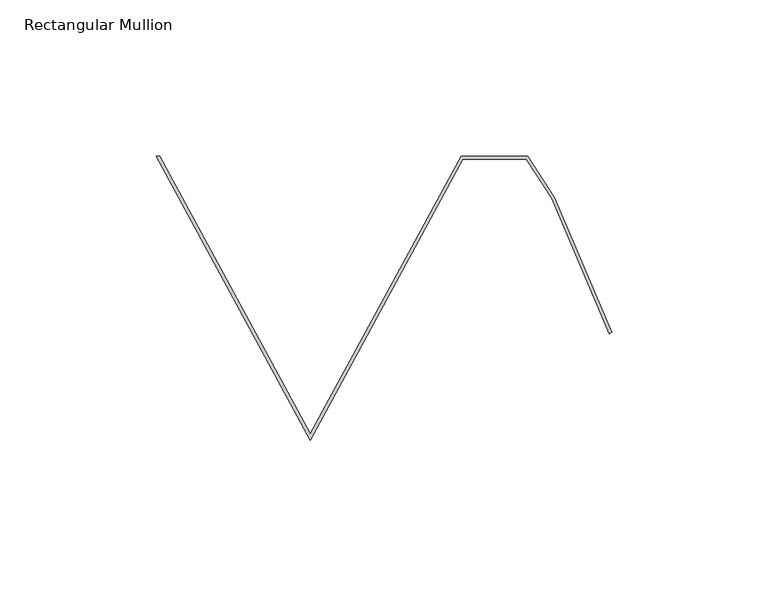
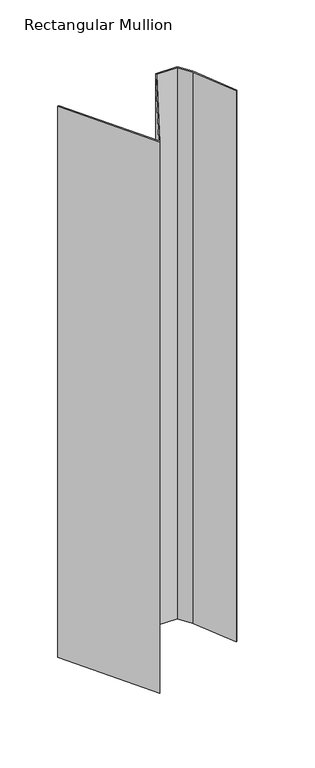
"""IFC4 building model written with IfcOpenShell, lengths in millimetres: member geometry, Rectangular Mullion : CD_NINELINE_Pleat Start."""

import ifcopenshell
import ifcopenshell.guid

model = None  # the IFC model being written
_history = None  # IfcOwnerHistory: only IFC2X3 demands one
_inside = {}  # id of a spatial element -> (the spatial element, [elements in it])
_under = {}  # id of a project, library or spatial element -> (it, [spatial elements below it])
_declared = {}  # id of a project -> (the project, [libraries it declares])
_typed = {}  # id of a type object -> (the type object, [elements of that type])
_made_of = {}  # id of a material, layer set ... -> (it, [elements and type objects made of it])


def new_model(schema):
    """Start an empty IFC model of exactly this schema.

    Asked for "IFC4X3", IfcOpenShell would pick the latest addendum, in which some entities
    have other attributes; the version numbers below select the first issue.
    IFC2X3 requires an IfcOwnerHistory on every rooted entity: one is made here for all.
    """
    global model, _history
    if schema == "IFC4X3":
        model = ifcopenshell.file(schema_version=(4, 3, 0, 0))
    else:
        model = ifcopenshell.file(schema=schema)
    _inside.clear()
    _under.clear()
    _declared.clear()
    _typed.clear()
    _made_of.clear()
    _history = None
    if model.schema == "IFC2X3":
        org = make("IfcOrganization", Name="unknown")
        user = make(
            "IfcPersonAndOrganization",
            ThePerson=make("IfcPerson", FamilyName="unknown"),
            TheOrganization=org,
        )
        app = make(
            "IfcApplication",
            ApplicationDeveloper=org,
            Version="unknown",
            ApplicationFullName="unknown",
            ApplicationIdentifier="unknown",
        )
        _history = make(
            "IfcOwnerHistory",
            OwningUser=user,
            OwningApplication=app,
            ChangeAction="ADDED",
            CreationDate=0,
        )
    return model


def make(cls, **values):
    """One entity of the class cls with the attributes given. An attribute that is None is left unset."""
    return model.create_entity(
        cls, **{name: value for name, value in values.items() if value is not None}
    )


def rooted(cls, **values):
    """An entity with a GlobalId (a new one), such as an element, a storey or a relation."""
    return make(cls, GlobalId=ifcopenshell.guid.new(), OwnerHistory=_history, **values)


def si_unit(unit_type, name, prefix=None):
    """IfcSIUnit, for example si_unit("LENGTHUNIT", "METRE", prefix="MILLI")."""
    return make("IfcSIUnit", UnitType=unit_type, Prefix=prefix, Name=name)


def assignment(units):
    """IfcUnitAssignment: the units of a project."""
    return None if units is None else make("IfcUnitAssignment", Units=units)


def point(xyz):
    """IfcCartesianPoint."""
    return None if xyz is None else make("IfcCartesianPoint", Coordinates=xyz)


def direction(xyz):
    """IfcDirection."""
    return None if xyz is None else make("IfcDirection", DirectionRatios=xyz)


def frame(location, z_axis=None, x_axis=None):
    """IfcAxis2Placement3D, a coordinate frame: its origin and axes. An axis left out is left unset."""
    return make(
        "IfcAxis2Placement3D",
        Location=point(location),
        Axis=direction(z_axis),
        RefDirection=direction(x_axis),
    )


def origin():
    """The frame at (0, 0, 0) with its axes left unset."""
    return frame((0.0, 0.0, 0.0))


def place(relative_to, where):
    """IfcLocalPlacement: puts the frame where relative to a parent placement (None: the world)."""
    return make(
        "IfcLocalPlacement", PlacementRelTo=relative_to, RelativePlacement=where
    )


def context(
    kind, dimensions, precision=None, world=None, true_north=None, identifier=None
):
    """IfcGeometricRepresentationContext, for example the 3D "Model" context."""
    return make(
        "IfcGeometricRepresentationContext",
        ContextIdentifier=identifier,
        ContextType=kind,
        CoordinateSpaceDimension=dimensions,
        Precision=precision,
        WorldCoordinateSystem=world,
        TrueNorth=true_north,
    )


def project(units=None, contexts=None):
    """IfcProject with its units and contexts."""
    return rooted(
        "IfcProject",
        Name="project",
        RepresentationContexts=contexts,
        UnitsInContext=assignment(units),
    )


def spatial(cls, under=None, at=None, **own):
    """A site, building, storey or space (cls), placed at a placement, below another one or the project."""
    s = rooted(cls, ObjectPlacement=at, **own)
    if under is not None:
        _under.setdefault(under.id(), (under, []))[1].append(s)
    return s


def polyline(points):
    """IfcPolyline through the points."""
    return make("IfcPolyline", Points=[point(p) for p in points])


def outline(outer, holes=None, kind="AREA"):
    """IfcArbitraryClosedProfileDef: a profile drawn as a closed curve; with holes, ...WithVoids."""
    if holes is None:
        return make("IfcArbitraryClosedProfileDef", ProfileType=kind, OuterCurve=outer)
    return make(
        "IfcArbitraryProfileDefWithVoids",
        ProfileType=kind,
        OuterCurve=outer,
        InnerCurves=holes,
    )


def extrude(swept, where, along, depth):
    """IfcExtrudedAreaSolid: the profile swept, set in the frame where, extruded along a direction by depth."""
    return make(
        "IfcExtrudedAreaSolid",
        SweptArea=swept,
        Position=where,
        ExtrudedDirection=direction(along),
        Depth=depth,
    )


def shape(context_of_items, identifier, shape_type, items):
    """IfcShapeRepresentation: the items that make up one representation, for example the "Body"."""
    return make(
        "IfcShapeRepresentation",
        ContextOfItems=context_of_items,
        RepresentationIdentifier=identifier,
        RepresentationType=shape_type,
        Items=items,
    )


def source(mapping_origin, context_of_items, identifier, shape_type, items):
    """IfcRepresentationMap: a shape defined once, which mapped items show again and again."""
    return make(
        "IfcRepresentationMap",
        MappingOrigin=mapping_origin,
        MappedRepresentation=shape(context_of_items, identifier, shape_type, items),
    )


def transform(
    local_origin,
    x_axis=None,
    y_axis=None,
    z_axis=None,
    scale=None,
    scale2=None,
    scale3=None,
    uniform=True,
):
    """IfcCartesianTransformationOperator3D, or its non-uniform kind. x_axis, y_axis, z_axis: its Axis1, 2, 3."""
    if uniform:
        return make(
            "IfcCartesianTransformationOperator3D",
            Axis1=direction(x_axis),
            Axis2=direction(y_axis),
            LocalOrigin=point(local_origin),
            Scale=scale,
            Axis3=direction(z_axis),
        )
    return make(
        "IfcCartesianTransformationOperator3DnonUniform",
        Axis1=direction(x_axis),
        Axis2=direction(y_axis),
        LocalOrigin=point(local_origin),
        Scale=scale,
        Axis3=direction(z_axis),
        Scale2=scale2,
        Scale3=scale3,
    )


def mapped(mapping_source, mapping_target):
    """IfcMappedItem: shows the shape of a source again, moved by a transform."""
    return make(
        "IfcMappedItem", MappingSource=mapping_source, MappingTarget=mapping_target
    )


def made_of(thing, what):
    """Note that an element or type object is made of a material, layer set ...; save() writes the relation."""
    if what is not None:
        _made_of.setdefault(what.id(), (what, []))[1].append(thing)
    return thing


def element(
    cls,
    number,
    at=None,
    inside=None,
    cuts=None,
    type_object=None,
    material=None,
    context=None,
    identifier="Body",
    shape_type=None,
    held_by="IfcProductDefinitionShape",
    body=None,
    shapes=None,
    **own,
):
    """One element of the class cls, such as IfcWall. Its Tag is "e" and its number.

    at: its placement. inside: the storey or other place that contains it. cuts: it is an
    opening in that element (IfcRelVoidsElement). A single representation is given by context,
    identifier, shape_type and body (its items); several are given by shapes. held_by: the class
    of the entity that holds the representations. save() writes the other relations.
    """
    e = rooted(cls, Tag="e%d" % number, ObjectPlacement=at, **own)
    if body is not None:
        shapes = [shape(context, identifier, shape_type, body)]
    if shapes is not None:
        e.Representation = make(held_by, Representations=shapes)
    if inside is not None:
        _inside.setdefault(inside.id(), (inside, []))[1].append(e)
    if cuts is not None:
        rooted(
            "IfcRelVoidsElement", RelatingBuildingElement=cuts, RelatedOpeningElement=e
        )
    if type_object is not None:
        _typed.setdefault(type_object.id(), (type_object, []))[1].append(e)
    return made_of(e, material)


def aggregate(whole, parts):
    """IfcRelAggregates: a whole, such as a stair, and the parts it consists of."""
    return rooted("IfcRelAggregates", RelatingObject=whole, RelatedObjects=parts)


def save(model, path):
    """Write the relations noted so far, then the file.

    IfcRelAggregates (storeys below a building ...), IfcRelContainedInSpatialStructure (elements
    in a storey), IfcRelDefinesByType, IfcRelAssociatesMaterial and IfcRelDeclares: one each for
    every whole, place, type object, material and project.
    """
    for whole, parts in _under.values():
        aggregate(whole, parts)
    for where, things in _inside.values():
        rooted(
            "IfcRelContainedInSpatialStructure",
            RelatedElements=things,
            RelatingStructure=where,
        )
    for kind, things in _typed.values():
        rooted("IfcRelDefinesByType", RelatedObjects=things, RelatingType=kind)
    for what, things in _made_of.values():
        rooted("IfcRelAssociatesMaterial", RelatedObjects=things, RelatingMaterial=what)
    for by, libraries in _declared.values():
        rooted("IfcRelDeclares", RelatingContext=by, RelatedDefinitions=libraries)
    model.write(path)


def rectangular_mullion_1fecb4d4(model_context):
    return source(origin(), model_context, "Body", "SweptSolid", [
        extrude(outline(polyline([(-47.7222764, -1.0), (-96.5882894, -91.0), (-145.997258, 0.0), (-144.856794, 0.0), (-96.5882329, -88.9012056), (-48.3196718, 0.0), (-26.9107882, 0.0), (-18.3986164, -13.1078083), (0.0, -56.4531277), (-0.9204563, -56.8438302), (-19.2850663, -13.5795203), (-27.4543023, -1.0), (-47.7222764, -1.0)])), frame((0.0, 0.0, -582.0625), z_axis=(0.0, 0.0, 1.0), x_axis=(1.0, 0.0, 0.0)), (0.0, 0.0, 1.0), 582.0625),
    ])


if __name__ == "__main__":
    model = new_model("IFC4")
    model_context = context("Model", 3, world=origin())
    ifc_project = project(units=[si_unit("LENGTHUNIT", "METRE", prefix="MILLI")], contexts=[model_context])
    site = spatial("IfcSite", under=ifc_project)
    building = spatial("IfcBuilding", under=site)
    placement = place(None, origin())
    rectangular_mullion_shape = rectangular_mullion_1fecb4d4(model_context)
    element("IfcMember", 1, ObjectType="Rectangular Mullion : CD_NINELINE_Pleat Start", at=placement, inside=building, context=model_context, shape_type="MappedRepresentation", body=[
        mapped(rectangular_mullion_shape, transform((0.0, 0.0, 0.0), x_axis=(1.0, 0.0, 0.0), y_axis=(0.0, 1.0, 0.0), z_axis=(0.0, 0.0, 1.0))),
    ])
    save(model, "model.ifc")
